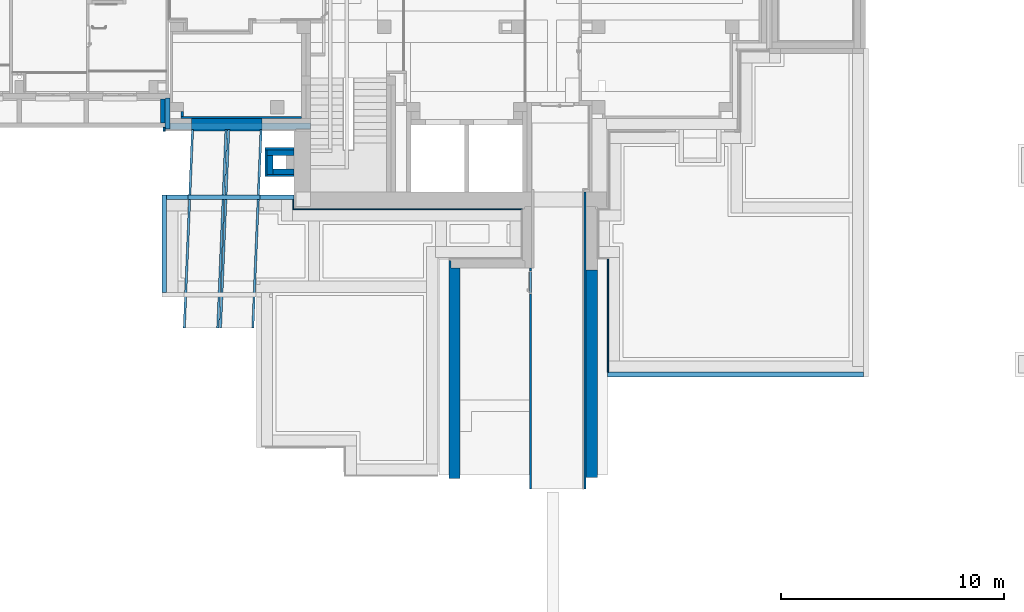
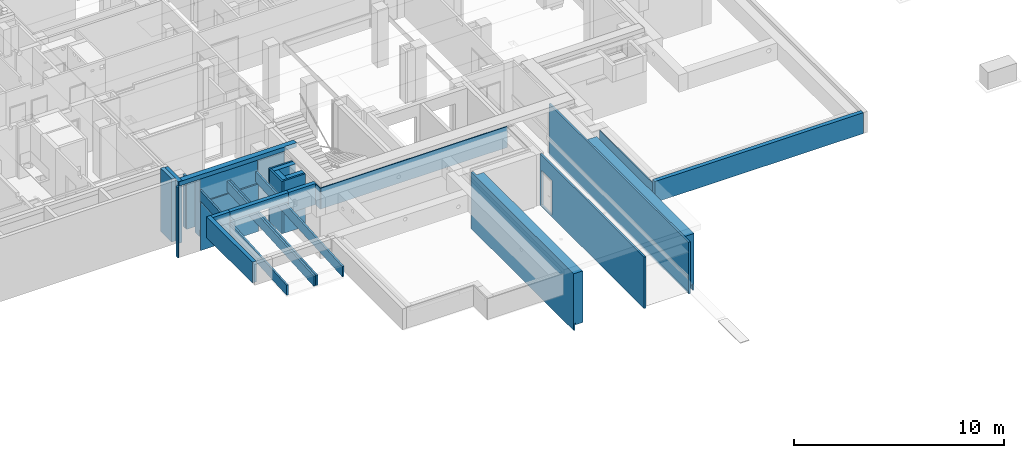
# One storey, part 15 of 84: 30 walls, 2 openings.
"""IFC4 building model written with IfcOpenShell, lengths in metres."""

from ifc_helpers import new_model, entity, si_unit, converted_unit, derived_unit, frame, frame_2d, origin, origin_with_axes, place, context, subcontext, project, spatial, polyline, rectangle, outline, extrude, clip, bounded_halfspace, material, layer, layer_set, layer_usage, element, save


model = new_model("IFC4")

# Units and contexts
model_context = context("Model", 3, precision=1e-05, world=origin())
body_context = subcontext(model_context, "Body", "Model", "MODEL_VIEW")
ifc_project = project(units=[si_unit("LENGTHUNIT", "METRE"), si_unit("AREAUNIT", "SQUARE_METRE"), si_unit("VOLUMEUNIT", "CUBIC_METRE"), si_unit("MASSUNIT", "GRAM", prefix="KILO"), converted_unit("PLANEANGLEUNIT", "DEGREE", entity("IfcPlaneAngleMeasure", 0.0174532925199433), si_unit("PLANEANGLEUNIT", "RADIAN"), dimensions=[0, 0, 0, 0, 0, 0, 0]), derived_unit("THERMALTRANSMITTANCEUNIT", [(si_unit("POWERUNIT", "WATT"), 1), (si_unit("THERMODYNAMICTEMPERATUREUNIT", "KELVIN"), -1), (si_unit("LENGTHUNIT", "METRE"), -2)]), derived_unit("VOLUMETRICFLOWRATEUNIT", [(si_unit("LENGTHUNIT", "METRE"), 3), (converted_unit("TIMEUNIT", "hour", entity("IfcTimeMeasure", 3600.0), si_unit("TIMEUNIT", "SECOND"), dimensions=[0, 0, 1, 0, 0, 0, 0]), -1), (si_unit("LENGTHUNIT", "METRE"), -1)])], contexts=[model_context])

# Site, building, storey
site_placement = place(None, origin())
site = spatial("IfcSite", under=ifc_project, at=site_placement, Name="3. ASŘ", CompositionType="ELEMENT")
building_placement = place(site_placement, origin())
building = spatial("IfcBuilding", under=site, at=building_placement, Name="Pavilon C", CompositionType="ELEMENT")
storey_placement = place(building_placement, frame((0.0, 0.0, -3.3)))
storey = spatial("IfcBuildingStorey", under=building, at=storey_placement, Name="Půdorys 1.PP", CompositionType="ELEMENT", Elevation=-3.3)

# Walls
ifc_material_1 = material(Name="ZELEZOBETONOVÁ KCE")
ifc_layer_1 = layer(ifc_material_1, 0.2)
ifc_material_2 = material(Name="LIGNOPOR")
ifc_layer_2 = layer(ifc_material_2, 0.025)
ifc_layer_set_1 = layer_set([ifc_layer_1, ifc_layer_2])
ifc_layer_usage_1 = layer_usage(ifc_layer_set_1, "AXIS2", "POSITIVE", 0.0)
wall_1_placement = place(storey_placement, frame((24.75, -0.970000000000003, -0.4), z_axis=(0.0, 0.0, 1.0), x_axis=(0.0, 1.0, 0.0)))
element("IfcWall", 1, at=wall_1_placement, inside=storey, material=ifc_layer_usage_1, Name="ZELEZOBETONOVÁ KCE", context=body_context, shape_type="Clipping", body=[
    clip(extrude(outline(polyline([(0.025, -0.225), (1.395, -0.225), (1.395, -0.025), (1.37, -0.025), (1.37, 0.0), (0.0, 0.0), (0.0, -0.025), (0.025, -0.025), (0.025, -0.225)])), frame((-0.025, 0.225, 0.0), z_axis=(0.0, 0.0, 1.0), x_axis=(1.0, 0.0, 0.0)), (0.0, 0.0, 1.0), 3.35), bounded_halfspace(frame((0.528, 0.209999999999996, 0.4), z_axis=(0.0, 0.0, 1.0), x_axis=(0.0, -1.0, 0.0)), True, origin_with_axes(), polyline([(-0.025, 0.225), (-0.025, 0.2), (0.0, 0.2), (1.345, 0.2), (1.345, 0.225), (-0.025, 0.225)]))),
])
ifc_material_3 = material(Name="PÓROBETONOVÉ ZDIVO")
ifc_layer_3 = layer(ifc_material_3, 0.08)
ifc_layer_set_2 = layer_set([ifc_layer_3])
ifc_layer_usage_2 = layer_usage(ifc_layer_set_2, "AXIS2", "POSITIVE", 0.0)
wall_2_placement = place(storey_placement, frame((24.525, -1.075, -1.15), z_axis=(0.0, 0.0, 1.0), x_axis=(0.0, 1.0, 0.0)))
element("IfcWall", 2, at=wall_2_placement, inside=storey, material=ifc_layer_usage_2, Name="ZELEZOBETONOVÁ KCE", context=body_context, shape_type="SweptSolid", body=[
    extrude(rectangle(XDim=0.169999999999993, YDim=0.08, at=frame_2d((0.0849999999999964, 0.04), x_axis=(1.0, 0.0))), origin_with_axes(), (0.0, 0.0, 1.0), 4.1),
])
ifc_material_4 = material(Name="ZELEZOBETONOVÁ KCE")
ifc_layer_4 = layer(ifc_material_4, 0.2)
ifc_layer_set_3 = layer_set([ifc_layer_4])
ifc_layer_usage_3 = layer_usage(ifc_layer_set_3, "AXIS2", "POSITIVE", -0.1)
wall_3_placement = place(storey_placement, frame((24.325, 0.35499999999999, -0.4), z_axis=(0.0, 0.0, 1.0), x_axis=(0.0, -1.0, 0.0)))
element("IfcWall", 3, at=wall_3_placement, inside=storey, material=ifc_layer_usage_3, Name="ZELEZOBETONOVÁ KCE", context=body_context, shape_type="SweptSolid", body=[
    extrude(rectangle(XDim=1.06, YDim=0.2, at=frame_2d((0.53, 0.1), x_axis=(1.0, 0.0))), origin_with_axes(), (0.0, 0.0, 1.0), 3.67),
])
ifc_material_5 = material(Name="PÓROBETONOVÉ ZDIVO")
ifc_layer_5 = layer(ifc_material_5, 0.1)
ifc_layer_set_4 = layer_set([ifc_layer_5])
ifc_layer_usage_4 = layer_usage(ifc_layer_set_4, "AXIS2", "POSITIVE", 0.0)
wall_4_placement = place(storey_placement, frame((25.25, -0.520000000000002, -0.1), z_axis=(0.0, 0.0, 1.0), x_axis=(1.0, -1.05265590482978e-16, 0.0)))
element("IfcWall", 4, at=wall_4_placement, inside=storey, material=ifc_layer_usage_4, Name="PÓROBETONOVÉ ZDIVO", context=body_context, shape_type="SweptSolid", body=[
    extrude(rectangle(XDim=5.4, YDim=0.1, at=frame_2d((2.7, 0.05), x_axis=(1.0, 0.0))), origin_with_axes(), (0.0, 0.0, 1.0), 3.05),
])
ifc_material_6 = material(Name="ZDIVO Z CDm")
ifc_layer_6 = layer(ifc_material_6, 0.25)
ifc_layer_set_5 = layer_set([ifc_layer_6])
ifc_layer_usage_5 = layer_usage(ifc_layer_set_5, "AXIS2", "POSITIVE", 0.0)
wall_5_placement = place(storey_placement, frame((29.105, -2.165, -0.1)))
element("IfcWall", 5, at=wall_5_placement, inside=storey, material=ifc_layer_usage_5, Name="ZDIVO Z CDm", context=body_context, shape_type="SweptSolid", body=[
    extrude(rectangle(XDim=1.2, YDim=0.25, at=frame_2d((0.6, 0.125), x_axis=(1.0, 0.0))), origin_with_axes(), (0.0, 0.0, 1.0), 3.05),
])
ifc_material_7 = material(Name="ZDIVO Z CDm")
ifc_layer_7 = layer(ifc_material_7, 0.25)
ifc_layer_set_6 = layer_set([ifc_layer_7])
ifc_layer_usage_6 = layer_usage(ifc_layer_set_6, "AXIS2", "POSITIVE", 0.0)
wall_6_placement = place(storey_placement, frame((29.355, -3.015, -0.1), z_axis=(0.0, 0.0, 1.0), x_axis=(0.0, 1.0, 0.0)))
element("IfcWall", 6, at=wall_6_placement, inside=storey, material=ifc_layer_usage_6, Name="ZDIVO Z CDm", context=body_context, shape_type="SweptSolid", body=[
    extrude(rectangle(XDim=0.85, YDim=0.25, at=frame_2d((0.425, 0.125), x_axis=(1.0, 0.0))), origin_with_axes(), (0.0, 0.0, 1.0), 3.05),
])
ifc_material_8 = material(Name="ZDIVO Z CDm")
ifc_layer_8 = layer(ifc_material_8, 0.25)
ifc_layer_set_7 = layer_set([ifc_layer_8])
ifc_layer_usage_7 = layer_usage(ifc_layer_set_7, "AXIS2", "POSITIVE", 0.0)
wall_7_placement = place(storey_placement, frame((30.305, -2.765, -0.1), z_axis=(0.0, 0.0, 1.0), x_axis=(-1.0, 0.0, 0.0)))
element("IfcWall", 7, at=wall_7_placement, inside=storey, material=ifc_layer_usage_7, Name="ZDIVO Z CDm", context=body_context, shape_type="SweptSolid", body=[
    extrude(rectangle(XDim=0.95, YDim=0.25, at=frame_2d((0.475, 0.125), x_axis=(1.0, 0.0))), origin_with_axes(), (0.0, 0.0, 1.0), 3.05),
])
ifc_material_9 = material(Name="PÓROBETONOVÉ ZDIVO")
ifc_layer_9 = layer(ifc_material_9, 0.1)
ifc_layer_set_8 = layer_set([ifc_layer_9])
ifc_layer_usage_8 = layer_usage(ifc_layer_set_8, "AXIS2", "POSITIVE", 0.0)
wall_8_placement = place(storey_placement, frame((29.005, -1.915, -0.1), z_axis=(0.0, 0.0, 1.0), x_axis=(1.0, -1.76258663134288e-16, 0.0)))
element("IfcWall", 8, at=wall_8_placement, inside=storey, material=ifc_layer_usage_8, Name="ZELEZOBETONOVÁ KCE", context=body_context, shape_type="SweptSolid", body=[
    extrude(rectangle(XDim=1.29, YDim=0.1, at=frame_2d((0.645, 0.05), x_axis=(1.0, 0.0))), origin_with_axes(), (0.0, 0.0, 1.0), 3.05),
])
ifc_material_10 = material(Name="PÓROBETONOVÉ ZDIVO")
ifc_layer_10 = layer(ifc_material_10, 0.1)
ifc_layer_set_9 = layer_set([ifc_layer_10])
ifc_layer_usage_9 = layer_usage(ifc_layer_set_9, "AXIS2", "POSITIVE", 0.0)
wall_9_placement = place(storey_placement, frame((29.105, -3.115, -0.1), z_axis=(0.0, 0.0, 1.0), x_axis=(0.0, 1.0, 0.0)))
element("IfcWall", 9, at=wall_9_placement, inside=storey, material=ifc_layer_usage_9, Name="ZELEZOBETONOVÁ KCE", context=body_context, shape_type="SweptSolid", body=[
    extrude(rectangle(XDim=1.2, YDim=0.1, at=frame_2d((0.6, 0.05), x_axis=(1.0, 0.0))), origin_with_axes(), (0.0, 0.0, 1.0), 3.05),
])
ifc_material_11 = material(Name="PÓROBETONOVÉ ZDIVO")
ifc_layer_11 = layer(ifc_material_11, 0.1)
ifc_layer_set_10 = layer_set([ifc_layer_11])
ifc_layer_usage_10 = layer_usage(ifc_layer_set_10, "AXIS2", "POSITIVE", 0.0)
wall_10_placement = place(storey_placement, frame((30.295, -3.015, -0.1), z_axis=(0.0, 0.0, 1.0), x_axis=(-1.0, 0.0, 0.0)))
element("IfcWall", 10, at=wall_10_placement, inside=storey, material=ifc_layer_usage_10, Name="ZELEZOBETONOVÁ KCE", context=body_context, shape_type="SweptSolid", body=[
    extrude(rectangle(XDim=1.19, YDim=0.1, at=frame_2d((0.595, 0.05), x_axis=(1.0, 0.0))), origin_with_axes(), (0.0, 0.0, 1.0), 3.05),
])
ifc_material_12 = material(Name="PÓROBETONOVÉ ZDIVO")
ifc_layer_12 = layer(ifc_material_12, 0.1)
ifc_layer_set_11 = layer_set([ifc_layer_12])
ifc_layer_usage_11 = layer_usage(ifc_layer_set_11, "AXIS2", "POSITIVE", 0.0)
wall_11_placement = place(storey_placement, frame((25.25, -0.200000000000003, -0.1), z_axis=(0.0, 0.0, 1.0), x_axis=(0.0, -1.0, 0.0)))
element("IfcWall", 11, at=wall_11_placement, inside=storey, material=ifc_layer_usage_11, Name="PÓROBETONOVÉ ZDIVO", context=body_context, shape_type="SweptSolid", body=[
    extrude(rectangle(XDim=0.219999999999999, YDim=0.1, at=frame_2d((0.11, 0.05), x_axis=(1.0, 0.0))), origin_with_axes(), (0.0, 0.0, 1.0), 3.05),
])
ifc_material_13 = material(Name="ZELEZOBETONOVÁ KCE")
ifc_layer_13 = layer(ifc_material_13, 0.45)
ifc_material_14 = material(Name="LIGNOPOR")
ifc_layer_14 = layer(ifc_material_14, 0.025)
ifc_material_15 = material(Name="PÓROBETONOVÉ ZDIVO")
ifc_layer_15 = layer(ifc_material_15, 0.08)
ifc_layer_set_12 = layer_set([ifc_layer_13, ifc_layer_14, ifc_layer_15])
ifc_layer_usage_12 = layer_usage(ifc_layer_set_12, "AXIS2", "POSITIVE", 0.0)
wall_12_placement = place(storey_placement, frame((28.8809064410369, -0.520000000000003, -1.15), z_axis=(0.0, 0.0, 1.0), x_axis=(-1.0, 0.0, 0.0)))
element("IfcWall", 12, at=wall_12_placement, inside=storey, material=ifc_layer_usage_12, Name="ZELEZOBETONOVÁ KCE", context=body_context, shape_type="Clipping", body=[
    clip(clip(clip(extrude(rectangle(XDim=3.17273746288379, YDim=0.555, at=frame_2d((1.58636873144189, 0.2775), x_axis=(1.0, 0.0))), origin_with_axes(), (0.0, 0.0, 1.0), 4.1), bounded_halfspace(frame((1.58636873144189, 0.225, 0.750000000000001), z_axis=(0.0, 0.0, 1.0), x_axis=(0.0, -1.0, 0.0)), True, origin_with_axes(), polyline([(0.0, 0.45), (0.0, 0.0), (3.17273746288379, 0.0), (3.17273746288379, 0.45), (0.0, 0.45)]))), bounded_halfspace(frame((1.58636873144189, 0.4625, 1.15), z_axis=(0.0, 0.0, 1.0), x_axis=(0.0, -1.0, 0.0)), True, origin_with_axes(), polyline([(0.0, 0.475), (0.0, 0.45), (3.17273746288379, 0.45), (3.17273746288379, 0.475), (0.0, 0.475)]))), bounded_halfspace(frame((1.58636873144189, 0.515, 2.77), z_axis=(3.58324125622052e-17, 1.4210854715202e-15, -1.0), x_axis=(1.0, 0.0, 7.16648251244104e-17)), True, origin_with_axes(), polyline([(0.0, 0.475), (3.17273746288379, 0.475), (3.17273746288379, 0.555), (0.0, 0.555), (0.0, 0.475)]))),
])
ifc_material_16 = material(Name="PÓROBETONOVÉ ZDIVO")
ifc_layer_16 = layer(ifc_material_16, 0.1)
ifc_layer_set_13 = layer_set([ifc_layer_16])
ifc_layer_usage_13 = layer_usage(ifc_layer_set_13, "AXIS2", "POSITIVE", 0.0)
wall_13_placement = place(storey_placement, frame((43.4, -17.125, -0.1), z_axis=(0.0, 0.0, 1.0), x_axis=(0.0, 1.0, 0.0)))
element("IfcWall", 13, at=wall_13_placement, inside=storey, material=ifc_layer_usage_13, Name="PÓROBETONOVÉ ZDIVO", context=body_context, shape_type="SweptSolid", body=[
    extrude(rectangle(XDim=13.325, YDim=0.1, at=frame_2d((6.6625, 0.05), x_axis=(1.0, 0.0))), origin_with_axes(), (0.0, 0.0, 1.0), 3.0),
])

# Wall, opening
ifc_material_17 = material(Name="DŘEVĚNÁ KCE")
ifc_layer_17 = layer(ifc_material_17, 0.1)
ifc_layer_set_14 = layer_set([ifc_layer_17])
ifc_layer_usage_14 = layer_usage(ifc_layer_set_14, "AXIS2", "POSITIVE", 0.0)
wall_14_placement = place(storey_placement, frame((40.95, -17.125, -0.1), z_axis=(0.0, 0.0, 1.0), x_axis=(0.0, 1.0, 0.0)))
wall_14 = element("IfcWall", 14, at=wall_14_placement, inside=storey, material=ifc_layer_usage_14, Name="DŘEVĚNÁ KCE", context=body_context, shape_type="SweptSolid", body=[
    extrude(rectangle(XDim=9.925, YDim=0.1, at=frame_2d((4.9625, 0.05), x_axis=(1.0, 0.0))), origin_with_axes(), (0.0, 0.0, 1.0), 3.0),
])
opening_1_placement = place(wall_14_placement, frame((9.79, 0.1, 0.1), z_axis=(0.0, -1.0, 0.0), x_axis=(0.0, 0.0, 1.0)))
element("IfcOpeningElement", 15, at=opening_1_placement, cuts=wall_14, Name="Dveřní otvor", ObjectType="Opening", context=body_context, shape_type="SweptSolid", body=[
    extrude(outline(polyline([(0.0, 1.03), (2.02, 1.03), (2.02, 0.0), (0.0, 0.0), (0.0, 1.03)])), origin_with_axes(), (0.0, 0.0, 1.0), 0.1),
])

# Walls
ifc_material_18 = material(Name="PREFA ŽB ENERGOKANÁL")
ifc_layer_18 = layer(ifc_material_18, 0.099999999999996)
ifc_layer_set_15 = layer_set([ifc_layer_18])
ifc_layer_usage_15 = layer_usage(ifc_layer_set_15, "AXIS2", "POSITIVE", 0.0)
wall_15_placement = place(storey_placement, frame((28.7808200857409, -0.995000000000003, 1.72), z_axis=(0.0, 0.0, 1.0), x_axis=(-0.0415315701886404, -0.999137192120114, 0.0)))
element("IfcWall", 16, at=wall_15_placement, inside=storey, material=ifc_layer_usage_15, Name="PREFA ŽB ENERGOKANÁL", context=body_context, shape_type="SweptSolid", body=[
    extrude(outline(polyline([(-8.91314879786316, 5.6843418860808e-17), (0.0, 0.0), (-0.00415674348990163, 0.0999999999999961), (-8.91730554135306, 0.100000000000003), (-8.91314879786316, 5.6843418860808e-17)])), frame((8.91314879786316, -5.6843418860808e-17, 0.0), z_axis=(0.0, 0.0, 1.0), x_axis=(1.0, 0.0, 0.0)), (0.0, 0.0, 1.0), 0.6),
])
ifc_material_19 = material(Name="PREFA ŽB ENERGOKANÁL")
ifc_layer_19 = layer(ifc_material_19, 0.0999999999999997)
ifc_layer_set_16 = layer_set([ifc_layer_19])
ifc_layer_usage_16 = layer_usage(ifc_layer_set_16, "AXIS2", "POSITIVE", 0.0)
wall_16_placement = place(storey_placement, frame((27.3295679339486, -0.995000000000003, 1.72), z_axis=(0.0, 0.0, 1.0), x_axis=(-0.0415315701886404, -0.999137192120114, 0.0)))
element("IfcWall", 17, at=wall_16_placement, inside=storey, material=ifc_layer_usage_16, Name="PREFA ŽB ENERGOKANÁL", context=body_context, shape_type="SweptSolid", body=[
    extrude(outline(polyline([(-8.91314879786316, 5.6843418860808e-17), (0.0, 0.0), (-0.00415674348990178, 0.0999999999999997), (-8.91730554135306, 0.0999999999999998), (-8.91314879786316, 5.6843418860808e-17)])), frame((8.91314879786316, -5.6843418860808e-17, 0.0), z_axis=(0.0, 0.0, 1.0), x_axis=(1.0, 0.0, 0.0)), (0.0, 0.0, 1.0), 0.6),
])
ifc_material_20 = material(Name="PREFA ŽB ENERGOKANÁL")
ifc_layer_20 = layer(ifc_material_20, 0.0999999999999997)
ifc_layer_set_17 = layer_set([ifc_layer_20])
ifc_layer_usage_17 = layer_usage(ifc_layer_set_17, "AXIS2", "POSITIVE", 0.0)
wall_17_placement = place(storey_placement, frame((27.2094643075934, -0.995000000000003, 1.72), z_axis=(0.0, 0.0, 1.0), x_axis=(-0.0415315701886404, -0.999137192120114, 0.0)))
element("IfcWall", 18, at=wall_17_placement, inside=storey, material=ifc_layer_usage_17, Name="PREFA ŽB ENERGOKANÁL", context=body_context, shape_type="SweptSolid", body=[
    extrude(outline(polyline([(-8.91314879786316, 5.6843418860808e-17), (0.0, 0.0), (-0.00415674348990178, 0.0999999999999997), (-8.91730554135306, 0.100000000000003), (-8.91314879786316, 5.6843418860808e-17)])), frame((8.91314879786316, -5.6843418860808e-17, 0.0), z_axis=(0.0, 0.0, 1.0), x_axis=(1.0, 0.0, 0.0)), (0.0, 0.0, 1.0), 0.6),
])
ifc_material_21 = material(Name="PREFA ŽB ENERGOKANÁL")
ifc_layer_21 = layer(ifc_material_21, 0.100000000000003)
ifc_layer_set_18 = layer_set([ifc_layer_21])
ifc_layer_usage_18 = layer_usage(ifc_layer_set_18, "AXIS2", "POSITIVE", 0.0)
wall_18_placement = place(storey_placement, frame((25.7081689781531, -0.995000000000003, 1.72), z_axis=(0.0, 0.0, 1.0), x_axis=(-0.0415315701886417, -0.999137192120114, 0.0)))
element("IfcWall", 19, at=wall_18_placement, inside=storey, material=ifc_layer_usage_18, Name="PREFA ŽB ENERGOKANÁL", context=body_context, shape_type="SweptSolid", body=[
    extrude(outline(polyline([(-8.91314879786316, 5.6843418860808e-17), (0.0, 0.0), (-0.00415674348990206, 0.100000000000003), (-8.91730554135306, 0.0999999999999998), (-8.91314879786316, 5.6843418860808e-17)])), frame((8.91314879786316, -5.6843418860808e-17, 0.0), z_axis=(0.0, 0.0, 1.0), x_axis=(1.0, 0.0, 0.0)), (0.0, 0.0, 1.0), 0.6),
])
ifc_material_22 = material(Name="ZELEZOBETONOVÁ KCE")
ifc_layer_22 = layer(ifc_material_22, 0.4)
ifc_material_23 = material(Name="LIGNOPOR")
ifc_layer_23 = layer(ifc_material_23, 0.025)
ifc_material_24 = material(Name="PÓROBETONOVÉ ZDIVO")
ifc_layer_24 = layer(ifc_material_24, 0.08)
ifc_layer_set_19 = layer_set([ifc_layer_22, ifc_layer_23, ifc_layer_24])
ifc_layer_usage_19 = layer_usage(ifc_layer_set_19, "AXIS2", "POSITIVE", 0.0)
wall_19_placement = place(storey_placement, frame((43.4, -7.30500000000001, -0.4), z_axis=(0.0, 0.0, 1.0), x_axis=(0.0, -1.0, 0.0)))
element("IfcWall", 20, at=wall_19_placement, inside=storey, material=ifc_layer_usage_19, Name="ZELEZOBETONOVÁ KCE", context=body_context, shape_type="Clipping", body=[
    clip(clip(extrude(rectangle(XDim=9.29499999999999, YDim=0.505, at=frame_2d((4.6475, 0.2525), x_axis=(1.0, 0.0))), origin_with_axes(), (0.0, 0.0, 1.0), 3.3), bounded_halfspace(frame((4.6475, 0.2, 0.3), z_axis=(0.0, 0.0, 1.0), x_axis=(0.0, -1.0, 0.0)), True, origin_with_axes(), polyline([(0.0, 0.4), (0.0, 0.0), (9.29499999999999, 0.0), (9.29499999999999, 0.4), (0.0, 0.4)]))), bounded_halfspace(frame((4.6475, 0.412500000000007, 0.4), z_axis=(0.0, 0.0, 1.0), x_axis=(0.0, -1.0, 0.0)), True, origin_with_axes(), polyline([(0.0, 0.425000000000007), (0.0, 0.4), (9.29499999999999, 0.4), (9.29499999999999, 0.425000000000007), (0.0, 0.425000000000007)]))),
])

# Wall, opening
ifc_material_25 = material(Name="ZELEZOBETONOVÁ KCE")
ifc_layer_25 = layer(ifc_material_25, 0.4)
ifc_material_26 = material(Name="LIGNOPOR")
ifc_layer_26 = layer(ifc_material_26, 0.025)
ifc_material_27 = material(Name="PÓROBETONOVÉ ZDIVO")
ifc_layer_27 = layer(ifc_material_27, 0.08)
ifc_layer_set_20 = layer_set([ifc_layer_25, ifc_layer_26, ifc_layer_27])
ifc_layer_usage_20 = layer_usage(ifc_layer_set_20, "AXIS2", "POSITIVE", 0.0)
wall_20_placement = place(storey_placement, frame((37.75, -16.65, -0.4), z_axis=(0.0, 0.0, 1.0), x_axis=(0.0, 1.0, 0.0)))
wall_20 = element("IfcWall", 21, at=wall_20_placement, inside=storey, material=ifc_layer_usage_20, Name="ZELEZOBETONOVÁ KCE", context=body_context, shape_type="Clipping", body=[
    clip(clip(extrude(outline(polyline([(0.0, -0.505), (9.44999999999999, -0.505), (9.44999999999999, -0.105), (9.74999999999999, -0.105), (9.74999999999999, -0.08), (9.77499999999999, -0.08), (9.77499999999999, 0.0), (0.0, 0.0), (0.0, -0.505)])), frame((0.0, 0.505, 0.0), z_axis=(0.0, 0.0, 1.0), x_axis=(1.0, 0.0, 0.0)), (0.0, 0.0, 1.0), 3.3), bounded_halfspace(frame((4.72499999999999, 0.2, 0.3), z_axis=(0.0, 0.0, 1.0), x_axis=(0.0, -1.0, 0.0)), True, origin_with_axes(), polyline([(0.0, 0.4), (0.0, 0.0), (9.44999999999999, 0.0), (9.44999999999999, 0.4), (0.0, 0.4)]))), bounded_halfspace(frame((5.78999999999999, 0.41, 0.4), z_axis=(0.0, 0.0, 1.0), x_axis=(0.0, -1.0, 0.0)), True, origin_with_axes(), polyline([(0.0, 0.425), (0.0, 0.4), (9.44999999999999, 0.4), (9.74999999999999, 0.4), (9.74999999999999, 0.425), (0.0, 0.425)]))),
])
opening_2_placement = place(wall_20_placement, frame((3.17499999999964, 0.0, 2.99), z_axis=(0.0, 1.0, 0.0), x_axis=(0.0, 0.0, 1.0)))
element("IfcOpeningElement", 22, at=opening_2_placement, cuts=wall_20, Name="Prostup stěnou", ObjectType="Opening", context=body_context, shape_type="SweptSolid", body=[
    extrude(outline(polyline([(0.0999999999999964, 0.0), (0.0895471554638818, 0.00054781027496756), (0.0792088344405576, 0.00218523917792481), (0.0690983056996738, 0.00489434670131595), (0.0593263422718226, 0.00864545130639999), (0.0500000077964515, 0.0133974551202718), (0.0412214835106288, 0.0190982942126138), (0.0330869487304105, 0.0256855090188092), (0.0256855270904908, 0.0330869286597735), (0.0190983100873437, 0.0412214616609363), (0.0133974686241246, 0.0499999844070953), (0.008645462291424, 0.0593263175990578), (0.00489435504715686, 0.0690982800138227), (0.00218524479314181, 0.0792088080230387), (0.000547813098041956, 0.089547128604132), (0.0, 0.0999999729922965), (0.000547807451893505, 0.11045281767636), (0.00218523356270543, 0.120791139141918), (0.0048943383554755, 0.130901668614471), (0.00864544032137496, 0.140673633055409), (0.0133974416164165, 0.149999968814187), (0.0190982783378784, 0.158778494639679), (0.0256854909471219, 0.16691303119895), (0.0330869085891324, 0.174314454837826), (0.0412214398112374, 0.180901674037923), (0.0499999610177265, 0.186602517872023), (0.059326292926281, 0.191354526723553), (0.0690982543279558, 0.195105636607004), (0.0792087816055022, 0.19781474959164), (0.0895471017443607, 0.199452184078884), (0.0999999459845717, 0.2), (0.110452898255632, 0.199452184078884), (0.120791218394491, 0.19781474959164), (0.130901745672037, 0.195105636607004), (0.140673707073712, 0.191354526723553), (0.150000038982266, 0.186602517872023), (0.158778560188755, 0.180901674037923), (0.16691309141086, 0.174314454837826), (0.174314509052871, 0.16691303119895), (0.180901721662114, 0.158778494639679), (0.186602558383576, 0.149999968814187), (0.191354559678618, 0.140673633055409), (0.195105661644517, 0.130901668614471), (0.197814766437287, 0.120791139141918), (0.199452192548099, 0.11045281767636), (0.199999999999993, 0.0999999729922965), (0.199452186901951, 0.089547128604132), (0.197814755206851, 0.0792088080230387), (0.195105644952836, 0.0690982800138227), (0.191354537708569, 0.0593263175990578), (0.186602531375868, 0.0499999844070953), (0.180901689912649, 0.0412214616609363), (0.174314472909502, 0.0330869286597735), (0.166913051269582, 0.0256855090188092), (0.158778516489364, 0.0190982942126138), (0.149999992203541, 0.0133974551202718), (0.14067365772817, 0.00864545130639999), (0.130901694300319, 0.00489434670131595), (0.120791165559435, 0.00218523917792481), (0.110452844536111, 0.00054781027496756), (0.0999999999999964, 0.0)])), origin_with_axes(), (0.0, 0.0, 1.0), 0.4),
    extrude(outline(polyline([(0.0999999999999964, 0.0), (0.0895471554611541, 0.000547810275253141), (0.0792088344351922, 0.0021852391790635), (0.0690983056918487, 0.0048943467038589), (0.0593263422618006, 0.00864545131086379), (0.0500000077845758, 0.0133974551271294), (0.0412214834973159, 0.0190982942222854), (0.0330869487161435, 0.0256855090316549), (0.0256855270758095, 0.033086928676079), (0.0190983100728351, 0.0412214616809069), (0.0133974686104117, 0.0499999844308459), (0.00864546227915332, 0.0593263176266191), (0.00489435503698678, 0.069098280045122), (0.00218524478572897, 0.0792088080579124), (0.000547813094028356, 0.0895471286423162), (0.0, 0.0999999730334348), (0.000547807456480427, 0.110452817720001), (0.00218523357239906, 0.120791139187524), (0.00489433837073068, 0.130901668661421), (0.00864544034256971, 0.140673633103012), (0.0133974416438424, 0.149999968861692), (0.0190982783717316, 0.158778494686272), (0.0256854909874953, 0.166913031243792), (0.0330869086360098, 0.174314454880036), (0.0412214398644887, 0.180901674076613), (0.0499999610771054, 0.186602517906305), (0.0593262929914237, 0.191354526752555), (0.0690982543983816, 0.195105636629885), (0.0792087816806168, 0.197814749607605), (0.0895471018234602, 0.199452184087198), (0.0999999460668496, 0.2), (0.110452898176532, 0.199452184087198), (0.120791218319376, 0.197814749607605), (0.130901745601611, 0.195105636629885), (0.140673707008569, 0.191354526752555), (0.150000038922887, 0.186602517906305), (0.158778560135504, 0.180901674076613), (0.166913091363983, 0.174314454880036), (0.174314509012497, 0.166913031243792), (0.180901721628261, 0.158778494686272), (0.18660255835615, 0.149999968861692), (0.191354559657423, 0.140673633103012), (0.195105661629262, 0.130901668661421), (0.197814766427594, 0.120791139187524), (0.199452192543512, 0.110452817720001), (0.199999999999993, 0.0999999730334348), (0.199452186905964, 0.0895471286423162), (0.197814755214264, 0.0792088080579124), (0.195105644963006, 0.069098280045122), (0.191354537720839, 0.0593263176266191), (0.186602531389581, 0.0499999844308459), (0.180901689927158, 0.0412214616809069), (0.174314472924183, 0.033086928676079), (0.166913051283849, 0.0256855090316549), (0.158778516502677, 0.0190982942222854), (0.149999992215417, 0.0133974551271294), (0.140673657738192, 0.00864545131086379), (0.130901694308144, 0.0048943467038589), (0.120791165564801, 0.0021852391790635), (0.110452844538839, 0.000547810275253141), (0.0999999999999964, 0.0)])), frame((0.0, 0.0, 0.4), z_axis=(0.0, 0.0, 1.0), x_axis=(1.0, 0.0, 0.0)), (0.0, 0.0, 1.0), 0.025),
    extrude(outline(polyline([(0.0999999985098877, 0.0), (0.0895471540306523, 0.000547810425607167), (0.0792088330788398, 0.00218523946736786), (0.0690983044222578, 0.00489434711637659), (0.0593263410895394, 0.00864545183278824), (0.0500000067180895, 0.0133974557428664), (0.0412214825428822, 0.0190982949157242), (0.0330869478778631, 0.02568550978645), (0.0256855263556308, 0.0330869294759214), (0.0190983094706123, 0.0412214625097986), (0.013397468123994, 0.049999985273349), (0.00864546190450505, 0.0593263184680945), (0.00489435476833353, 0.0690982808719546), (0.00218524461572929, 0.0792088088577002), (0.000547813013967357, 0.0895471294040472), (0.0, 0.0999999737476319), (0.000547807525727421, 0.110452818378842), (0.00218523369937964, 0.12079113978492), (0.0048943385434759, 0.130901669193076), (0.00864544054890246, 0.140673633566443), (0.0133974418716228, 0.149999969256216), (0.0190982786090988, 0.158778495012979), (0.0256854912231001, 0.166913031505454), (0.0330869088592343, 0.174314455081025), (0.0412214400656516, 0.180901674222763), (0.0499999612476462, 0.186602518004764), (0.0593262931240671, 0.19135452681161), (0.0690982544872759, 0.195105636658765), (0.0792087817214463, 0.197814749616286), (0.0895471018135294, 0.199452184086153), (0.0999999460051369, 0.2), (0.110452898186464, 0.199452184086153), (0.120791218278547, 0.197814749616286), (0.130901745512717, 0.195105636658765), (0.140673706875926, 0.19135452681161), (0.150000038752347, 0.186602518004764), (0.158778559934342, 0.180901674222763), (0.166913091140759, 0.174314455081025), (0.174314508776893, 0.166913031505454), (0.180901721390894, 0.158778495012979), (0.18660255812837, 0.149999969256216), (0.191354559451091, 0.140673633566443), (0.195105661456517, 0.130901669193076), (0.197814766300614, 0.12079113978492), (0.199452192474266, 0.110452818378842), (0.199999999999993, 0.0999999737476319), (0.199452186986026, 0.0895471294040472), (0.197814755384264, 0.0792088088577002), (0.19510564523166, 0.0690982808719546), (0.191354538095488, 0.0593263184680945), (0.186602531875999, 0.049999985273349), (0.180901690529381, 0.0412214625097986), (0.174314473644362, 0.0330869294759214), (0.16691305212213, 0.02568550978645), (0.158778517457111, 0.0190982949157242), (0.149999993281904, 0.0133974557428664), (0.140673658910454, 0.00864545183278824), (0.130901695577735, 0.00489434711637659), (0.120791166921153, 0.00218523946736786), (0.110452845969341, 0.000547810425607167), (0.0999999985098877, 0.0)])), frame((0.0, 0.0, 0.425), z_axis=(0.0, 0.0, 1.0), x_axis=(1.0, 0.0, 0.0)), (0.0, 0.0, 1.0), 0.075),
])

# Walls
ifc_material_28 = material(Name="ZELEZOBETONOVÁ KCE")
ifc_layer_28 = layer(ifc_material_28, 0.200000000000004)
ifc_material_29 = material(Name="LIGNOPOR")
ifc_layer_29 = layer(ifc_material_29, 0.0250000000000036)
ifc_layer_set_21 = layer_set([ifc_layer_28, ifc_layer_29])
ifc_layer_usage_21 = layer_usage(ifc_layer_set_21, "AXIS2", "POSITIVE", 0.0)
wall_21_placement = place(storey_placement, frame((24.75, -0.970000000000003, 2.95), z_axis=(0.0, 0.0, 1.0), x_axis=(-5.31091796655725e-15, 1.0, 0.0)))
element("IfcWall", 23, at=wall_21_placement, inside=storey, material=ifc_layer_usage_21, context=body_context, shape_type="SweptSolid", body=[
    extrude(outline(polyline([(0.0249999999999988, -0.225000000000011), (1.395, -0.225000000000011), (1.395, -0.0250000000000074), (1.37, -0.0250000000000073), (1.37, -7.27595761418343e-15), (-3.86420140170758e-29, -7.27595761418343e-15), (-1.32772949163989e-16, -0.0250000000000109), (0.0249999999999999, -0.025000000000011), (0.0249999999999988, -0.225000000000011)])), frame((-0.0249999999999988, 0.225000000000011, 0.0), z_axis=(0.0, 0.0, 1.0), x_axis=(1.0, 0.0, 0.0)), (0.0, 0.0, 1.0), 0.25),
])
ifc_material_30 = material(Name="ZELEZOBETONOVÁ KCE")
ifc_layer_30 = layer(ifc_material_30, 0.27)
ifc_material_31 = material(Name="LIGNOPOR")
ifc_layer_31 = layer(ifc_material_31, 0.0250000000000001)
ifc_layer_set_22 = layer_set([ifc_layer_30, ifc_layer_31])
ifc_layer_usage_22 = layer_usage(ifc_layer_set_22, "AXIS2", "POSITIVE", 0.0)
wall_22_placement = place(storey_placement, frame((31.05, -0.700000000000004, 2.95), z_axis=(0.0, 0.0, 1.0), x_axis=(-1.0, 2.52637417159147e-16, 0.0)))
element("IfcWall", 24, at=wall_22_placement, inside=storey, material=ifc_layer_usage_22, context=body_context, shape_type="SweptSolid", body=[
    extrude(outline(polyline([(-6.49999999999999, -0.295000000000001), (-0.199999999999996, -0.295000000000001), (-0.199999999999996, -0.0250000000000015), (6.31593542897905e-18, -0.0250000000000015), (3.73380137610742e-31, -1.47792889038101e-15), (-5.84999999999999, -1.47792889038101e-15), (-5.84999999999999, -0.0250000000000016), (-6.49999999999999, -0.0250000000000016), (-6.49999999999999, -0.295000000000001)])), frame((6.49999999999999, 0.295000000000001, 0.0), z_axis=(0.0, 0.0, 1.0), x_axis=(1.0, 0.0, 0.0)), (0.0, 0.0, 1.0), 0.25),
])
ifc_material_32 = material(Name="PERIMETR")
ifc_layer_32 = layer(ifc_material_32, 0.05)
ifc_layer_set_23 = layer_set([ifc_layer_32])
ifc_layer_usage_23 = layer_usage(ifc_layer_set_23, "AXIS2", "POSITIVE", 0.0)
wall_23_placement = place(storey_placement, frame((30.295, -4.605, 1.8)))
element("IfcWall", 25, at=wall_23_placement, inside=storey, material=ifc_layer_usage_23, Name="PERIMETR", context=body_context, shape_type="SweptSolid", body=[
    extrude(rectangle(XDim=10.25, YDim=0.05, at=frame_2d((5.125, 0.025), x_axis=(1.0, 0.0))), origin_with_axes(), (0.0, 0.0, 1.0), 1.22),
])
ifc_material_33 = material(Name="PERIMETR")
ifc_layer_33 = layer(ifc_material_33, 0.05)
ifc_layer_set_24 = layer_set([ifc_layer_33])
ifc_layer_usage_24 = layer_usage(ifc_layer_set_24, "AXIS2", "POSITIVE", 0.0)
wall_24_placement = place(storey_placement, frame((30.245, -4.15, 1.8), z_axis=(0.0, 0.0, 1.0), x_axis=(0.0, -1.0, 0.0)))
element("IfcWall", 26, at=wall_24_placement, inside=storey, material=ifc_layer_usage_24, Name="PERIMETR", context=body_context, shape_type="SweptSolid", body=[
    extrude(rectangle(XDim=0.454999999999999, YDim=0.05, at=frame_2d((0.2275, 0.025), x_axis=(1.0, 0.0))), origin_with_axes(), (0.0, 0.0, 1.0), 1.22),
])
ifc_material_34 = material(Name="PERIMETR")
ifc_layer_34 = layer(ifc_material_34, 0.22)
ifc_layer_set_25 = layer_set([ifc_layer_34])
ifc_layer_usage_25 = layer_usage(ifc_layer_set_25, "AXIS2", "POSITIVE", 0.0)
wall_25_placement = place(storey_placement, frame((28.7697611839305, -4.15, 1.8)))
element("IfcWall", 27, at=wall_25_placement, inside=storey, material=ifc_layer_usage_25, Name="PERIMETR", context=body_context, shape_type="SweptSolid", body=[
    extrude(outline(polyline([(0.0, 0.0), (1.52523881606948, 0.0), (1.52523881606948, 0.22), (0.0091448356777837, 0.22), (0.0, 0.0)])), origin_with_axes(), (0.0, 0.0, 1.0), 1.22),
])
ifc_material_35 = material(Name="PERIMETR")
ifc_layer_35 = layer(ifc_material_35, 0.22)
ifc_layer_set_26 = layer_set([ifc_layer_35])
ifc_layer_usage_26 = layer_usage(ifc_layer_set_26, "AXIS2", "POSITIVE", 0.0)
wall_26_placement = place(storey_placement, frame((25.5570237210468, -4.15, 2.5)))
element("IfcWall", 28, at=wall_26_placement, inside=storey, material=ifc_layer_usage_26, Name="PERIMETR", context=body_context, shape_type="SweptSolid", body=[
    extrude(outline(polyline([(0.0, 0.0), (3.21273746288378, 0.0), (3.22188229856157, 0.22), (0.0091448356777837, 0.22), (0.0, 0.0)])), origin_with_axes(), (0.0, 0.0, 1.0), 0.52),
])
ifc_material_36 = material(Name="PERIMETR")
ifc_layer_36 = layer(ifc_material_36, 0.22)
ifc_layer_set_27 = layer_set([ifc_layer_36])
ifc_layer_usage_27 = layer_usage(ifc_layer_set_27, "AXIS2", "POSITIVE", 0.0)
wall_27_placement = place(storey_placement, frame((24.6, -4.15, 1.8)))
element("IfcWall", 29, at=wall_27_placement, inside=storey, material=ifc_layer_usage_27, Name="PERIMETR", context=body_context, shape_type="SweptSolid", body=[
    extrude(outline(polyline([(0.0, 0.0), (0.957023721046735, 0.0), (0.966168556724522, 0.22), (0.0, 0.22), (0.0, 0.0)])), origin_with_axes(), (0.0, 0.0, 1.0), 1.22),
])
ifc_material_37 = material(Name="PERIMETR")
ifc_layer_37 = layer(ifc_material_37, 0.22)
ifc_layer_set_28 = layer_set([ifc_layer_37])
ifc_layer_usage_28 = layer_usage(ifc_layer_set_28, "AXIS2", "POSITIVE", 0.0)
wall_28_placement = place(storey_placement, frame((24.6, -8.30000000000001, 1.8), z_axis=(0.0, 0.0, 1.0), x_axis=(0.0, 1.0, 0.0)))
element("IfcWall", 30, at=wall_28_placement, inside=storey, material=ifc_layer_usage_28, Name="PERIMETR", context=body_context, shape_type="SweptSolid", body=[
    extrude(rectangle(XDim=4.37000000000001, YDim=0.22, at=frame_2d((2.185, 0.11), x_axis=(1.0, 0.0))), origin_with_axes(), (0.0, 0.0, 1.0), 1.22),
])
ifc_material_38 = material(Name="PERIMETR")
ifc_layer_38 = layer(ifc_material_38, 0.05)
ifc_layer_set_29 = layer_set([ifc_layer_38])
ifc_layer_usage_29 = layer_usage(ifc_layer_set_29, "AXIS2", "POSITIVE", 0.0)
wall_29_placement = place(storey_placement, frame((44.4, -11.875, 1.8), z_axis=(0.0, 0.0, 1.0), x_axis=(0.0, 1.0, 0.0)))
element("IfcWall", 31, at=wall_29_placement, inside=storey, material=ifc_layer_usage_29, Name="PERIMETR", context=body_context, shape_type="SweptSolid", body=[
    extrude(rectangle(XDim=5.07499999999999, YDim=0.05, at=frame_2d((2.5375, 0.025), x_axis=(1.0, 0.0))), origin_with_axes(), (0.0, 0.0, 1.0), 1.0),
])
ifc_material_39 = material(Name="PERIMETR")
ifc_layer_39 = layer(ifc_material_39, 0.22)
ifc_layer_set_30 = layer_set([ifc_layer_39])
ifc_layer_usage_30 = layer_usage(ifc_layer_set_30, "AXIS2", "POSITIVE", 0.0)
wall_30_placement = place(storey_placement, frame((55.8250000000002, -11.875, 1.8), z_axis=(0.0, 0.0, 1.0), x_axis=(-1.0, 0.0, 0.0)))
element("IfcWall", 32, at=wall_30_placement, inside=storey, material=ifc_layer_usage_30, Name="PERIMETR", context=body_context, shape_type="SweptSolid", body=[
    extrude(rectangle(XDim=11.4750000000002, YDim=0.22, at=frame_2d((5.73750000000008, 0.11), x_axis=(1.0, 0.0))), origin_with_axes(), (0.0, 0.0, 1.0), 1.22),
])

save(model, "model.ifc")
